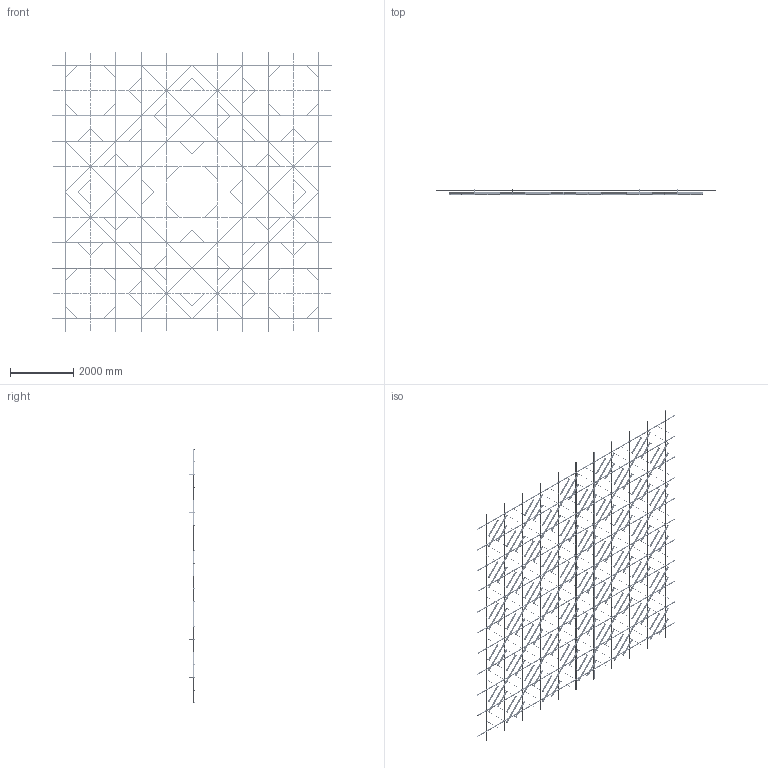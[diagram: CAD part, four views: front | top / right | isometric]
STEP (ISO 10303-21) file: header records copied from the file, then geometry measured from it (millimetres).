
FILE_DESCRIPTION (( 'STEP AP203' ), '1' );
FILE_NAME ('4 ìèíè ñ ïñ.step', '2025-11-25T13:20:12', ( '' ), ( '' ), 'SwSTEP 2.0', 'SolidWorks 2020', '' );
FILE_SCHEMA (( 'CONFIG_CONTROL_DESIGN' ));
Length unit declared in the file: millimetre
Products named in the file (5): Ñèñòåìà â çîíå 8000õ8000; SS.SEMA.2400 - Ñèìà-ïðîôèëü — îáðåçàí 1600; 4 ìèíè ñ ïñ; SS.SEMA.2400 - Ñèìà-ïðîôèëü; Var4
Assembly tree (90 placements, depth 3):
  4 ìèíè ñ ïñ
    Ñèñòåìà â çîíå 8000õ8000
      SS.SEMA.2400 - Ñèìà-ïðîôèëü  x66
      SS.SEMA.2400 - Ñèìà-ïðîôèëü — îáðåçàí 1600  x22
    Var4
Bounding box: 8800 x 158 x 8800 mm (x, y, z)
Volume: 117700157.7 mm3; surface area: 57293249.7 mm2
Topology: 1508 solids, 1508 shells, 22780 faces, 57884 edges, 38120 vertices
Faces by surface type: cylinder 14098, plane 8682
Entity records: 157591 total; most frequent: CARTESIAN_POINT 36194, DIRECTION 23874, ORIENTED_EDGE 22616, AXIS2_PLACEMENT_3D 11688, EDGE_CURVE 11308, VERTEX_POINT 7528, EDGE_LOOP 6786, FACE_OUTER_BOUND 6624
